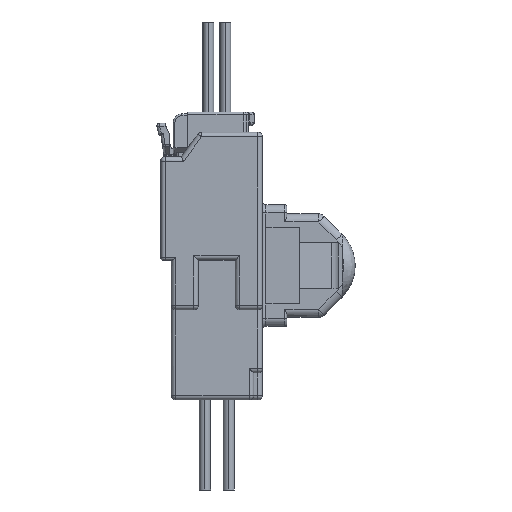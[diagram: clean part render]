
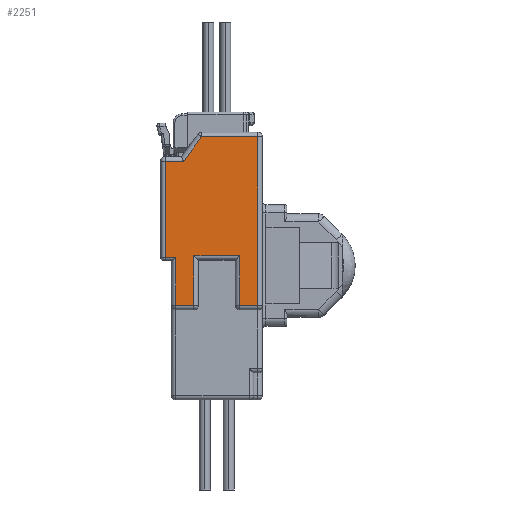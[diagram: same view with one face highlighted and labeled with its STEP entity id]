
A CAD part, left-side view. The second image highlights one B-rep face of the part: STEP entity #2251.
In plain terms, the highlighted planar face has unit normal (-1, 0, 0).
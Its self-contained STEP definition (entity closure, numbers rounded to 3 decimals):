
#37 = ORIENTED_EDGE ( 'NONE', *, *, #9107, .T. ) ;
#809 = CARTESIAN_POINT ( 'NONE',  ( -6.65, -2.55, -6.5 ) ) ;
#980 = ORIENTED_EDGE ( 'NONE', *, *, #9528, .T. ) ;
#1137 = DIRECTION ( 'NONE',  ( 0., -1., 0. ) ) ;
#1211 = VERTEX_POINT ( 'NONE', #6181 ) ;
#1342 = LINE ( 'NONE', #12720, #5449 ) ;
#1394 = EDGE_CURVE ( 'NONE', #10586, #2972, #11837, .T. ) ;
#1420 = CARTESIAN_POINT ( 'NONE',  ( -6.65, 4.55, -7. ) ) ;
#1559 = EDGE_CURVE ( 'NONE', #6706, #21648, #17158, .T. ) ;
#1720 = ORIENTED_EDGE ( 'NONE', *, *, #20214, .T. ) ;
#1912 = DIRECTION ( 'NONE',  ( 0., 1., 0. ) ) ;
#2196 = VECTOR ( 'NONE', #20598, 1000. ) ;
#2251 = ADVANCED_FACE ( 'NONE', ( #6262 ), #13572, .T. ) ;
#2372 = ORIENTED_EDGE ( 'NONE', *, *, #3395, .T. ) ;
#2511 = VERTEX_POINT ( 'NONE', #15735 ) ;
#2827 = LINE ( 'NONE', #1420, #11579 ) ;
#2972 = VERTEX_POINT ( 'NONE', #4593 ) ;
#3387 = LINE ( 'NONE', #16221, #19717 ) ;
#3395 = EDGE_CURVE ( 'NONE', #20255, #19016, #14162, .T. ) ;
#3511 = CARTESIAN_POINT ( 'NONE',  ( -6.65, 0., -1.2 ) ) ;
#4593 = CARTESIAN_POINT ( 'NONE',  ( -6.65, 4.55, -1.2 ) ) ;
#4600 = LINE ( 'NONE', #7552, #13909 ) ;
#4726 = VECTOR ( 'NONE', #16984, 1000. ) ;
#5449 = VECTOR ( 'NONE', #12953, 1000. ) ;
#5489 = ORIENTED_EDGE ( 'NONE', *, *, #13734, .T. ) ;
#5536 = VECTOR ( 'NONE', #14499, 1000. ) ;
#6181 = CARTESIAN_POINT ( 'NONE',  ( -6.65, -2.55, -1. ) ) ;
#6262 = FACE_OUTER_BOUND ( 'NONE', #13744, .T. ) ;
#6419 = DIRECTION ( 'NONE',  ( 0., 0., 1. ) ) ;
#6628 = VECTOR ( 'NONE', #1137, 1000. ) ;
#6706 = VERTEX_POINT ( 'NONE', #809 ) ;
#7162 = LINE ( 'NONE', #18493, #15909 ) ;
#7552 = CARTESIAN_POINT ( 'NONE',  ( -6.65, 5.75, -1.5 ) ) ;
#7673 = ORIENTED_EDGE ( 'NONE', *, *, #18343, .T. ) ;
#7717 = ORIENTED_EDGE ( 'NONE', *, *, #17696, .T. ) ;
#8401 = CARTESIAN_POINT ( 'NONE',  ( -6.65, 2.55, 0. ) ) ;
#8806 = CARTESIAN_POINT ( 'NONE',  ( -6.65, 5.75, -1.2 ) ) ;
#8926 = VERTEX_POINT ( 'NONE', #16314 ) ;
#8958 = CARTESIAN_POINT ( 'NONE',  ( -6.65, 5.75, 9.5 ) ) ;
#9107 = EDGE_CURVE ( 'NONE', #17189, #2511, #15304, .T. ) ;
#9114 = CARTESIAN_POINT ( 'NONE',  ( -6.65, 2.55, -1. ) ) ;
#9374 = DIRECTION ( 'NONE',  ( 0., 0.595, -0.804 ) ) ;
#9410 = CARTESIAN_POINT ( 'NONE',  ( -6.65, -4.55, -6.5 ) ) ;
#9528 = EDGE_CURVE ( 'NONE', #8926, #20255, #3387, .T. ) ;
#9853 = DIRECTION ( 'NONE',  ( 0., -1., 0. ) ) ;
#9896 = LINE ( 'NONE', #18660, #4726 ) ;
#10243 = ORIENTED_EDGE ( 'NONE', *, *, #12961, .T. ) ;
#10586 = VERTEX_POINT ( 'NONE', #8806 ) ;
#11579 = VECTOR ( 'NONE', #15388, 1000. ) ;
#11837 = LINE ( 'NONE', #3511, #6628 ) ;
#11930 = ORIENTED_EDGE ( 'NONE', *, *, #20927, .T. ) ;
#12381 = CARTESIAN_POINT ( 'NONE',  ( -6.65, 5.75, 9.5 ) ) ;
#12565 = DIRECTION ( 'NONE',  ( -1., 0., 0. ) ) ;
#12720 = CARTESIAN_POINT ( 'NONE',  ( -6.65, 0., -1. ) ) ;
#12953 = DIRECTION ( 'NONE',  ( 0., -1., 0. ) ) ;
#12961 = EDGE_CURVE ( 'NONE', #14631, #8926, #19422, .T. ) ;
#13244 = AXIS2_PLACEMENT_3D ( 'NONE', #19003, #12565, #22486 ) ;
#13572 = PLANE ( 'NONE',  #13244 ) ;
#13734 = EDGE_CURVE ( 'NONE', #2511, #21924, #15590, .T. ) ;
#13744 = EDGE_LOOP ( 'NONE', ( #21336, #14500, #7673, #37, #5489, #1720, #11930, #16042, #7717, #10243, #980, #2372 ) ) ;
#13909 = VECTOR ( 'NONE', #19672, 1000. ) ;
#14162 = LINE ( 'NONE', #12381, #18764 ) ;
#14488 = CARTESIAN_POINT ( 'NONE',  ( -6.65, -4.55, 12.2 ) ) ;
#14499 = DIRECTION ( 'NONE',  ( 0., 1., 0. ) ) ;
#14500 = ORIENTED_EDGE ( 'NONE', *, *, #1394, .T. ) ;
#14631 = VERTEX_POINT ( 'NONE', #14488 ) ;
#15304 = LINE ( 'NONE', #20266, #22420 ) ;
#15331 = CARTESIAN_POINT ( 'NONE',  ( -6.65, 0., -6.5 ) ) ;
#15388 = DIRECTION ( 'NONE',  ( 0., 0., -1. ) ) ;
#15590 = LINE ( 'NONE', #8401, #2196 ) ;
#15735 = CARTESIAN_POINT ( 'NONE',  ( -6.65, 2.55, -6.5 ) ) ;
#15909 = VECTOR ( 'NONE', #6419, 1000. ) ;
#16042 = ORIENTED_EDGE ( 'NONE', *, *, #1559, .T. ) ;
#16221 = CARTESIAN_POINT ( 'NONE',  ( -6.65, 3.548, 9.702 ) ) ;
#16291 = CARTESIAN_POINT ( 'NONE',  ( -6.65, 4.55, -6.5 ) ) ;
#16314 = CARTESIAN_POINT ( 'NONE',  ( -6.65, 1.698, 12.2 ) ) ;
#16984 = DIRECTION ( 'NONE',  ( 0., 0., -1. ) ) ;
#17158 = LINE ( 'NONE', #15331, #22339 ) ;
#17189 = VERTEX_POINT ( 'NONE', #16291 ) ;
#17696 = EDGE_CURVE ( 'NONE', #21648, #14631, #7162, .T. ) ;
#18343 = EDGE_CURVE ( 'NONE', #2972, #17189, #2827, .T. ) ;
#18493 = CARTESIAN_POINT ( 'NONE',  ( -6.65, -4.55, 12.7 ) ) ;
#18660 = CARTESIAN_POINT ( 'NONE',  ( -6.65, -2.55, 0. ) ) ;
#18764 = VECTOR ( 'NONE', #1912, 1000. ) ;
#19003 = CARTESIAN_POINT ( 'NONE',  ( -6.65, 0., 0. ) ) ;
#19016 = VERTEX_POINT ( 'NONE', #8958 ) ;
#19422 = LINE ( 'NONE', #21390, #5536 ) ;
#19672 = DIRECTION ( 'NONE',  ( 0., 0., -1. ) ) ;
#19717 = VECTOR ( 'NONE', #9374, 1000. ) ;
#20214 = EDGE_CURVE ( 'NONE', #21924, #1211, #1342, .T. ) ;
#20255 = VERTEX_POINT ( 'NONE', #21649 ) ;
#20266 = CARTESIAN_POINT ( 'NONE',  ( -6.65, 0., -6.5 ) ) ;
#20598 = DIRECTION ( 'NONE',  ( 0., 0., 1. ) ) ;
#20927 = EDGE_CURVE ( 'NONE', #1211, #6706, #9896, .T. ) ;
#21336 = ORIENTED_EDGE ( 'NONE', *, *, #22031, .T. ) ;
#21390 = CARTESIAN_POINT ( 'NONE',  ( -6.65, 1.95, 12.2 ) ) ;
#21648 = VERTEX_POINT ( 'NONE', #9410 ) ;
#21649 = CARTESIAN_POINT ( 'NONE',  ( -6.65, 3.698, 9.5 ) ) ;
#21924 = VERTEX_POINT ( 'NONE', #9114 ) ;
#22031 = EDGE_CURVE ( 'NONE', #19016, #10586, #4600, .T. ) ;
#22275 = DIRECTION ( 'NONE',  ( 0., -1., 0. ) ) ;
#22339 = VECTOR ( 'NONE', #22275, 1000. ) ;
#22420 = VECTOR ( 'NONE', #9853, 1000. ) ;
#22486 = DIRECTION ( 'NONE',  ( 0., 0., 1. ) ) ;
